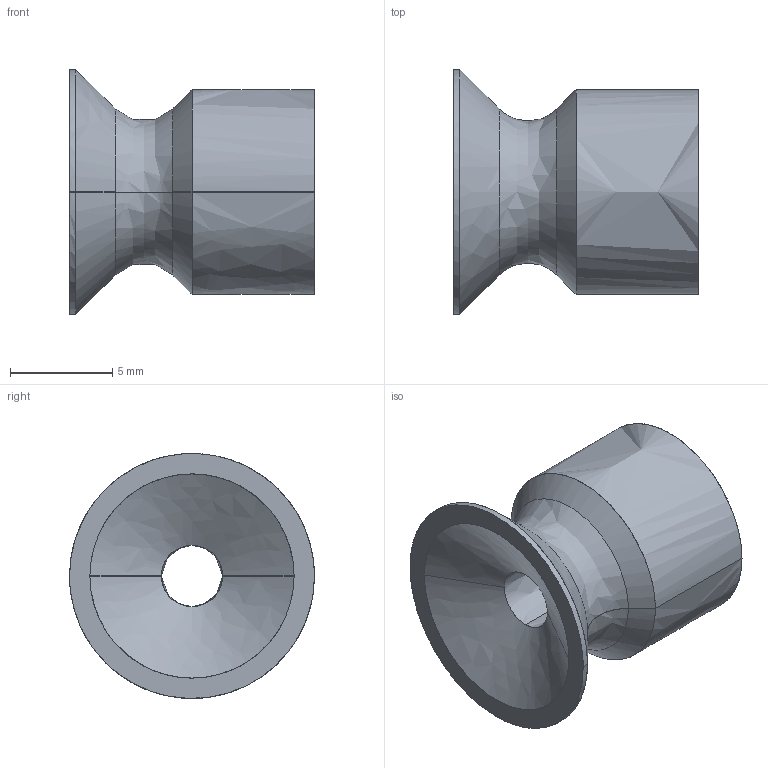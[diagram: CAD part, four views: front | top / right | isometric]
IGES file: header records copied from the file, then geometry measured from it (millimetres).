
Start section: SolidWorks IGES file using analytic representation for surfaces
Global section: file name: C:\Users\STAR081C\Desktop\211272.IGS; native system: SolidWorks 2018; preprocessor: SolidWorks 2018; author: STAR081C; date: 250529.135328; units: millimetre
Bounding box: 12 x 12 x 12 mm (x, y, z)
Surface area: 764.6 mm2 (no closed solid volume)
Topology: 0 solids, 0 shells, 22 faces, 214 edges, 214 vertices
Faces by surface type: bspline 22
